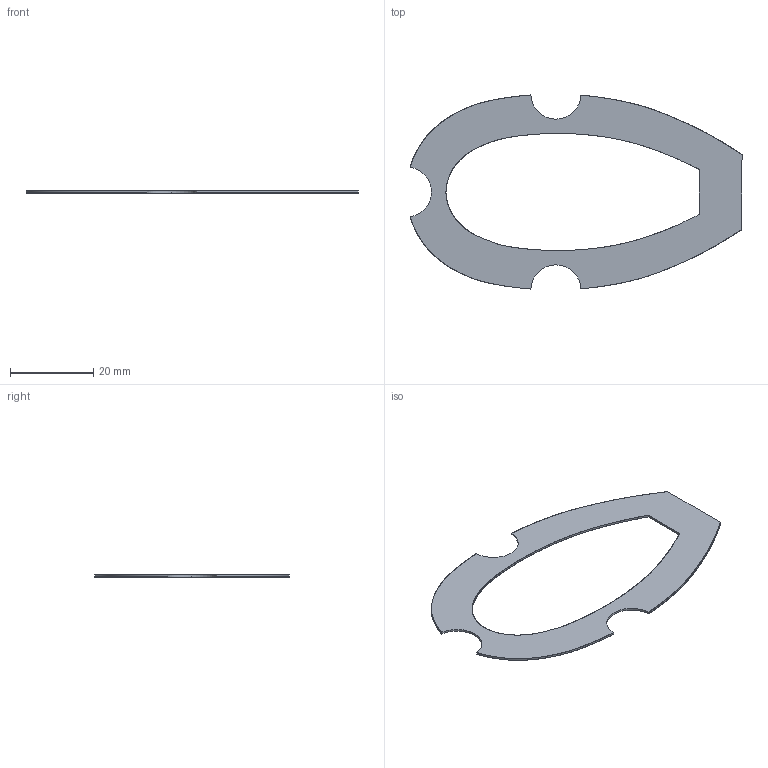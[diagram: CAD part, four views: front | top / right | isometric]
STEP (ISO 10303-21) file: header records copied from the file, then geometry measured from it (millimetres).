
FILE_DESCRIPTION(('STEP AP214'),'1');
FILE_NAME('tmp0.step','2025-08-04T14:23:35',(' '),(' '),'Spatial InterOp 3D',' ',' ');
FILE_SCHEMA(('AUTOMOTIVE_DESIGN { 1 0 10303 214 1 1 1 1 }'));
Length unit declared in the file: millimetre
Products named in the file (1): 1
Bounding box: 79.76 x 46.61 x 0.5 mm (x, y, z)
Volume: 760.2 mm3; surface area: 3229.1 mm2
Topology: 1 solids, 1 shells, 2270 faces, 6804 edges, 4536 vertices
Faces by surface type: plane 2264, cylinder 6
Entity records: 74909 total; most frequent: CARTESIAN_POINT 13611, ORIENTED_EDGE 13608, DIRECTION 11358, EDGE_CURVE 6804, LINE 6792, VECTOR 6792, VERTEX_POINT 4536, AXIS2_PLACEMENT_3D 2283
